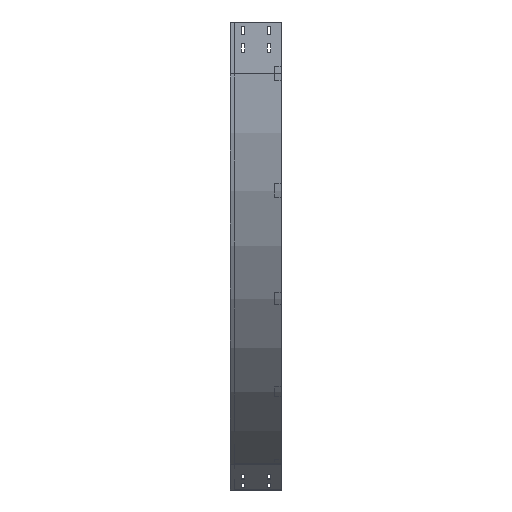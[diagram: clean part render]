
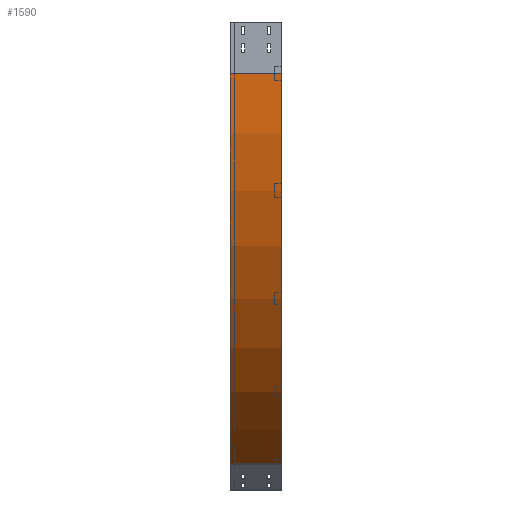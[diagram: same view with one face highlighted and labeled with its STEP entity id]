
A CAD part, left-side view. The second image highlights one B-rep face of the part: STEP entity #1590.
In plain terms, the highlighted cylindrical face has radius 1300 mm (diameter 2600 mm), a partial arc.
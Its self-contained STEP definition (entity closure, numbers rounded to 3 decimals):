
#44 = CARTESIAN_POINT ( 'NONE',  ( 0., 0., -150. ) ) ;
#133 = CYLINDRICAL_SURFACE ( 'NONE', #2344, 1300. ) ;
#158 = EDGE_CURVE ( 'NONE', #3327, #2828, #727, .T. ) ;
#173 = VERTEX_POINT ( 'NONE', #2177 ) ;
#230 = EDGE_LOOP ( 'NONE', ( #3073, #3793, #2318, #3153 ) ) ;
#272 = CARTESIAN_POINT ( 'NONE',  ( 1300., 0., -150. ) ) ;
#294 = CIRCLE ( 'NONE', #3042, 1300. ) ;
#727 = LINE ( 'NONE', #3117, #3477 ) ;
#811 = DIRECTION ( 'NONE',  ( 0., -1., 0. ) ) ;
#894 = EDGE_CURVE ( 'NONE', #2900, #2828, #294, .T. ) ;
#912 = CARTESIAN_POINT ( 'NONE',  ( 1300., 150., -150. ) ) ;
#960 = CARTESIAN_POINT ( 'NONE',  ( 0., 0., -150. ) ) ;
#966 = VECTOR ( 'NONE', #1566, 1000. ) ;
#1171 = CIRCLE ( 'NONE', #3113, 1300. ) ;
#1191 = DIRECTION ( 'NONE',  ( -1., 0., 0. ) ) ;
#1360 = FACE_OUTER_BOUND ( 'NONE', #230, .T. ) ;
#1566 = DIRECTION ( 'NONE',  ( 0., -1., 0. ) ) ;
#1582 = DIRECTION ( 'NONE',  ( 0., -1., 0. ) ) ;
#1590 = ADVANCED_FACE ( 'NONE', ( #1360 ), #133, .T. ) ;
#1685 = DIRECTION ( 'NONE',  ( 0., 0., -1. ) ) ;
#1775 = EDGE_CURVE ( 'NONE', #173, #2900, #2136, .T. ) ;
#2136 = LINE ( 'NONE', #44, #966 ) ;
#2176 = CARTESIAN_POINT ( 'NONE',  ( 650., 0., -1275.833 ) ) ;
#2177 = CARTESIAN_POINT ( 'NONE',  ( 0., 150., -150. ) ) ;
#2318 = ORIENTED_EDGE ( 'NONE', *, *, #3540, .T. ) ;
#2344 = AXIS2_PLACEMENT_3D ( 'NONE', #3740, #811, #1685 ) ;
#2398 = DIRECTION ( 'NONE',  ( -1., 0., 0. ) ) ;
#2403 = DIRECTION ( 'NONE',  ( 0., -1., 0. ) ) ;
#2484 = CARTESIAN_POINT ( 'NONE',  ( 650., 150., -1275.833 ) ) ;
#2671 = DIRECTION ( 'NONE',  ( 0., -1., 0. ) ) ;
#2828 = VERTEX_POINT ( 'NONE', #2176 ) ;
#2900 = VERTEX_POINT ( 'NONE', #960 ) ;
#3042 = AXIS2_PLACEMENT_3D ( 'NONE', #272, #2403, #1191 ) ;
#3073 = ORIENTED_EDGE ( 'NONE', *, *, #894, .F. ) ;
#3113 = AXIS2_PLACEMENT_3D ( 'NONE', #912, #2671, #2398 ) ;
#3117 = CARTESIAN_POINT ( 'NONE',  ( 650., 0., -1275.833 ) ) ;
#3153 = ORIENTED_EDGE ( 'NONE', *, *, #158, .T. ) ;
#3327 = VERTEX_POINT ( 'NONE', #2484 ) ;
#3477 = VECTOR ( 'NONE', #1582, 1000. ) ;
#3540 = EDGE_CURVE ( 'NONE', #173, #3327, #1171, .T. ) ;
#3740 = CARTESIAN_POINT ( 'NONE',  ( 1300., 0., -150. ) ) ;
#3793 = ORIENTED_EDGE ( 'NONE', *, *, #1775, .F. ) ;
